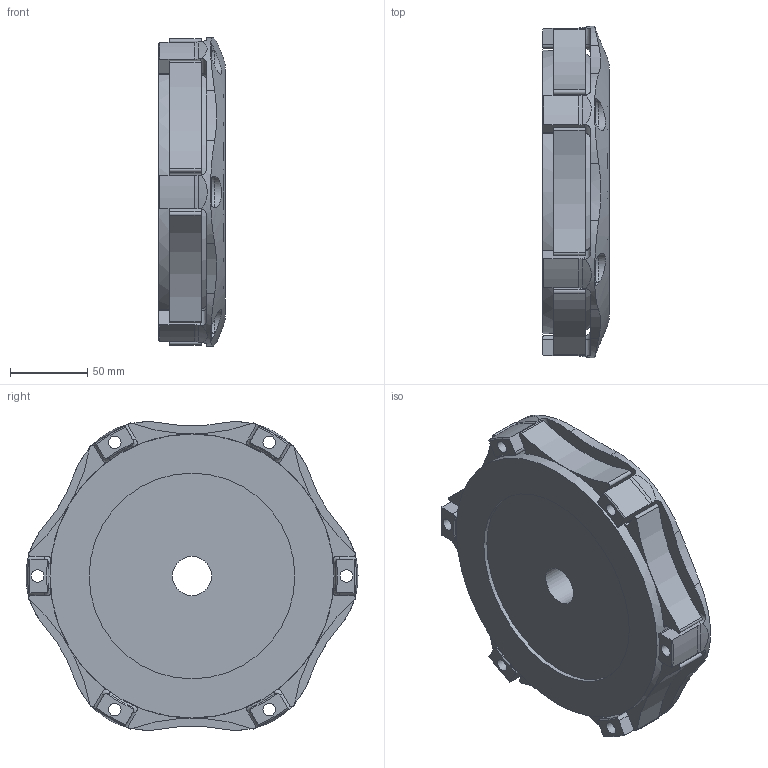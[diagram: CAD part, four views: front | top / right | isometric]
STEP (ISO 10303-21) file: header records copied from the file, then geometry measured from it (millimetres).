
FILE_DESCRIPTION(/* description */ ('Unknown'),/* implementation_level */ '2;1');
FILE_NAME(/* name */ '66-312XX-VV, FLUSH SPRING HW',/* time_stamp */ '2019-05-10T08:50:32-07:00',/* author */ ('Unknown'),/* organization */ ('Unknown'),/* preprocessor_version */ 'ST-DEVELOPER v16.7',/* originating_system */ 'DEX',/* authorisation */ $);
FILE_SCHEMA (('AUTOMOTIVE_DESIGN {1 0 10303 214 3 1 1}'));
Length unit declared in the file: millimetre
Products named in the file (1): 66-312XX-VV, FLUSH SPRING HW
Bounding box: 43.26 x 215.2 x 199.98 mm (x, y, z)
Volume: 985727.2 mm3; surface area: 162121.7 mm2
Topology: 1 solids, 1 shells, 595 faces, 1641 edges, 1083 vertices
Faces by surface type: cylinder 281, plane 246, torus 35, cone 33
Full cylindrical faces by diameter (mm): 8.077 x6, 9.093 x6, 11.684 x8, 25.4 x1, 97.472 x1, 114.3 x1, 133.35 x1, 184.15 x1
Entity records: 19182 total; most frequent: CARTESIAN_POINT 3896, DIRECTION 3240, ORIENTED_EDGE 3164, EDGE_CURVE 1582, AXIS2_PLACEMENT_3D 1204, VERTEX_POINT 1062, LINE 832, VECTOR 832
